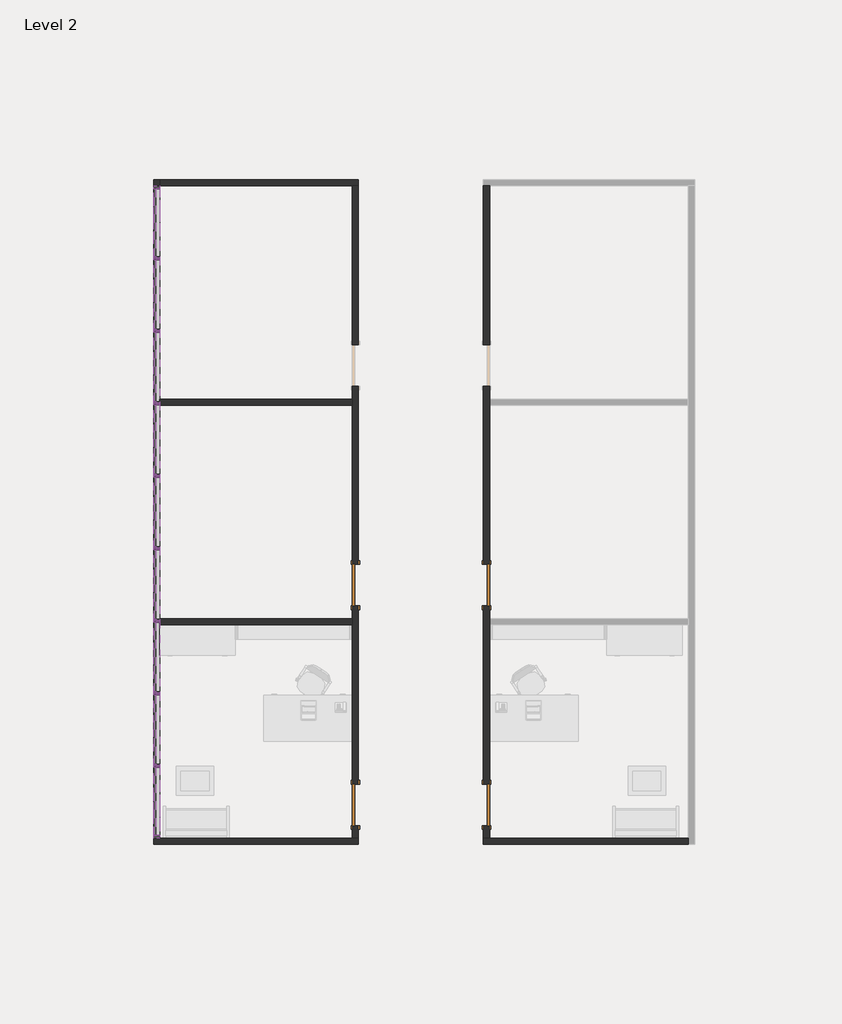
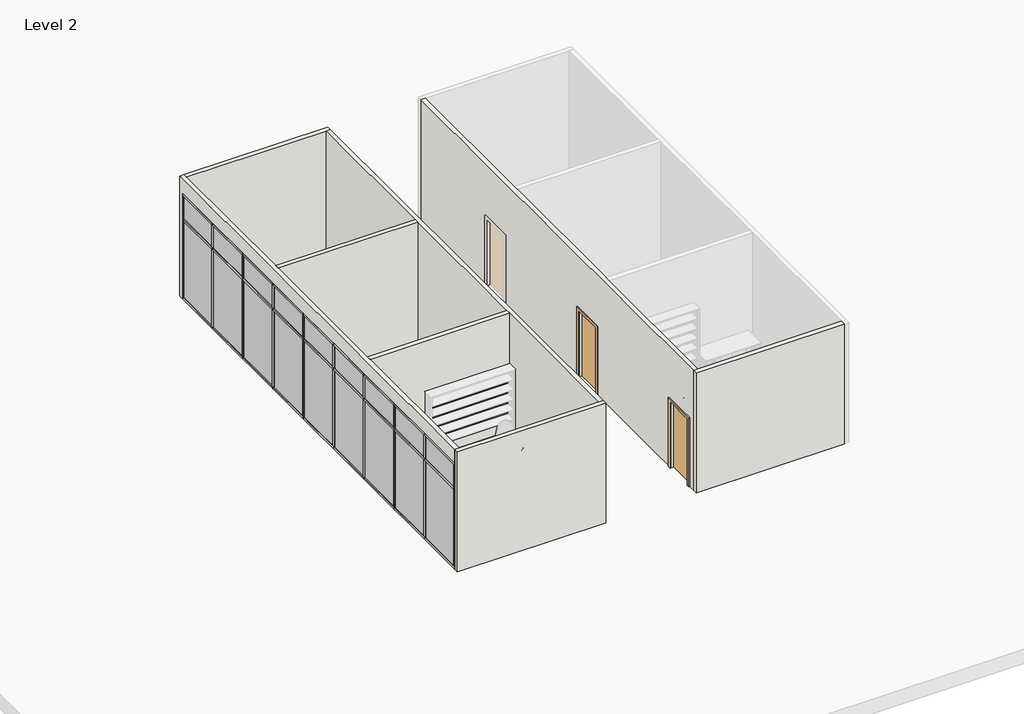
# One storey, part 1 of 2: 47 members, 18 plates, 8 walls, 4 doors.
"""IFC4 building model written with IfcOpenShell, lengths in millimetres."""

from ifc_helpers import new_model, si_unit, frame, origin, place, context, project, spatial, polyline, outline, extrude, faceted_brep, transform, mapped, element, save
from components import door_82111de5, door_92889684, member_fc09b6aa, member_9597caa3, member_b2bde9e6, member_131a91bd, member_8e4b14e5, member_ef392650, member_3251410a, system_panel_glazed_f771dc8d, system_panel_glazed_f1d9fa5b, system_panel_glazed_43c0bd6e, system_panel_glazed_38f416ca

model = new_model("IFC4")

# Units and contexts
model_context = context("Model", 3, world=origin())
ifc_project = project(units=[si_unit("LENGTHUNIT", "METRE", prefix="MILLI")], contexts=[model_context])

# Site, building, storey
site = spatial("IfcSite", under=ifc_project)
building = spatial("IfcBuilding", under=site)
storey = spatial("IfcBuildingStorey", under=building, Name="Level 2", Elevation=3657.6)

# Doors
placement = place(None, origin())
door_shape = door_82111de5(model_context)
element("IfcDoor", 1, ObjectType="Single-Flush : 34\" x 80\"", at=placement, inside=storey, context=model_context, shape_type="MappedRepresentation", body=[
    mapped(door_shape, transform((-51923.5856498, -16957.0103492, 3657.6), x_axis=(0.0, -1.0, 0.0), y_axis=(1.0, 0.0, 0.0), z_axis=(0.0, 0.0, 1.0))),
])
element("IfcDoor", 2, ObjectType="Single-Flush : 34\" x 80\"", at=placement, inside=storey, context=model_context, shape_type="MappedRepresentation", body=[
    mapped(door_shape, transform((-51923.5856498, -12385.0103492, 3657.6), x_axis=(0.0, -1.0, 0.0), y_axis=(1.0, 0.0, 0.0), z_axis=(0.0, 0.0, 1.0))),
])
door_2_shape = door_92889684(model_context)
element("IfcDoor", 3, ObjectType="Single-Flush : 34\" x 80\"", at=placement, inside=storey, context=model_context, shape_type="MappedRepresentation", body=[
    mapped(door_2_shape, transform((-49194.8999355, -16957.0103492, 3657.6), x_axis=(0.0, -1.0, 0.0), y_axis=(1.0, 0.0, 0.0), z_axis=(0.0, 0.0, 1.0))),
])
element("IfcDoor", 4, ObjectType="Single-Flush : 34\" x 80\"", at=placement, inside=storey, context=model_context, shape_type="MappedRepresentation", body=[
    mapped(door_2_shape, transform((-49194.8999355, -12385.0103492, 3657.6), x_axis=(0.0, -1.0, 0.0), y_axis=(1.0, 0.0, 0.0), z_axis=(0.0, 0.0, 1.0))),
])

# Members
member_shape = member_fc09b6aa(model_context)
element("IfcMember", 5, ObjectType="Rectangular Mullion : 2.5\" x 5\" rectangular", at=placement, inside=storey, context=model_context, shape_type="MappedRepresentation", body=[
    mapped(member_shape, transform((-56063.7856498, -14635.7325714, 6096.0), x_axis=(0.0, 0.0, 1.0), y_axis=(1.0, 0.0, 0.0), z_axis=(0.0, 1.0, 0.0))),
])
element("IfcMember", 6, ObjectType="Rectangular Mullion : 2.5\" x 5\" rectangular", at=placement, inside=storey, context=model_context, shape_type="MappedRepresentation", body=[
    mapped(member_shape, transform((-56063.7856498, -13125.8436825, 6096.0), x_axis=(0.0, 0.0, 1.0), y_axis=(1.0, 0.0, 0.0), z_axis=(0.0, 1.0, 0.0))),
])
element("IfcMember", 7, ObjectType="Rectangular Mullion : 2.5\" x 5\" rectangular", at=placement, inside=storey, context=model_context, shape_type="MappedRepresentation", body=[
    mapped(member_shape, transform((-56063.7856498, -11615.9547936, 6096.0), x_axis=(0.0, 0.0, 1.0), y_axis=(1.0, 0.0, 0.0), z_axis=(0.0, 1.0, 0.0))),
])
element("IfcMember", 8, ObjectType="Rectangular Mullion : 2.5\" x 5\" rectangular", at=placement, inside=storey, context=model_context, shape_type="MappedRepresentation", body=[
    mapped(member_shape, transform((-56063.7856498, -10106.0659048, 6096.0), x_axis=(0.0, 0.0, 1.0), y_axis=(1.0, 0.0, 0.0), z_axis=(0.0, 1.0, 0.0))),
])
element("IfcMember", 9, ObjectType="Rectangular Mullion : 2.5\" x 5\" rectangular", at=placement, inside=storey, context=model_context, shape_type="MappedRepresentation", body=[
    mapped(member_shape, transform((-56063.7856498, -8596.1770159, 6096.0), x_axis=(0.0, 0.0, 1.0), y_axis=(1.0, 0.0, 0.0), z_axis=(0.0, 1.0, 0.0))),
])
element("IfcMember", 10, ObjectType="Rectangular Mullion : 2.5\" x 5\" rectangular", at=placement, inside=storey, context=model_context, shape_type="MappedRepresentation", body=[
    mapped(member_shape, transform((-56063.7856498, -7086.288127, 6096.0), x_axis=(0.0, 0.0, 1.0), y_axis=(1.0, 0.0, 0.0), z_axis=(0.0, 1.0, 0.0))),
])
element("IfcMember", 11, ObjectType="Rectangular Mullion : 2.5\" x 5\" rectangular", at=placement, inside=storey, context=model_context, shape_type="MappedRepresentation", body=[
    mapped(member_shape, transform((-56063.7856498, -5576.3992381, 6096.0), x_axis=(0.0, 0.0, 1.0), y_axis=(1.0, 0.0, 0.0), z_axis=(0.0, 1.0, 0.0))),
])
member_2_shape = member_9597caa3(model_context)
element("IfcMember", 12, ObjectType="Rectangular Mullion : 2.5\" x 5\" rectangular", at=placement, inside=storey, context=model_context, shape_type="MappedRepresentation", body=[
    mapped(member_2_shape, transform((-56063.7856498, -16145.6214603, 3721.1), x_axis=(0.0, 1.0, 0.0), y_axis=(1.0, 0.0, 0.0), z_axis=(0.0, 0.0, -1.0))),
])
element("IfcMember", 13, ObjectType="Rectangular Mullion : 2.5\" x 5\" rectangular", at=placement, inside=storey, context=model_context, shape_type="MappedRepresentation", body=[
    mapped(member_2_shape, transform((-56063.7856498, -14635.7325714, 3721.1), x_axis=(0.0, 1.0, 0.0), y_axis=(1.0, 0.0, 0.0), z_axis=(0.0, 0.0, -1.0))),
])
element("IfcMember", 14, ObjectType="Rectangular Mullion : 2.5\" x 5\" rectangular", at=placement, inside=storey, context=model_context, shape_type="MappedRepresentation", body=[
    mapped(member_2_shape, transform((-56063.7856498, -13125.8436825, 3721.1), x_axis=(0.0, 1.0, 0.0), y_axis=(1.0, 0.0, 0.0), z_axis=(0.0, 0.0, -1.0))),
])
element("IfcMember", 15, ObjectType="Rectangular Mullion : 2.5\" x 5\" rectangular", at=placement, inside=storey, context=model_context, shape_type="MappedRepresentation", body=[
    mapped(member_2_shape, transform((-56063.7856498, -11615.9547936, 3721.1), x_axis=(0.0, 1.0, 0.0), y_axis=(1.0, 0.0, 0.0), z_axis=(0.0, 0.0, -1.0))),
])
element("IfcMember", 16, ObjectType="Rectangular Mullion : 2.5\" x 5\" rectangular", at=placement, inside=storey, context=model_context, shape_type="MappedRepresentation", body=[
    mapped(member_2_shape, transform((-56063.7856498, -10106.0659048, 3721.1), x_axis=(0.0, 1.0, 0.0), y_axis=(1.0, 0.0, 0.0), z_axis=(0.0, 0.0, -1.0))),
])
element("IfcMember", 17, ObjectType="Rectangular Mullion : 2.5\" x 5\" rectangular", at=placement, inside=storey, context=model_context, shape_type="MappedRepresentation", body=[
    mapped(member_2_shape, transform((-56063.7856498, -8596.1770159, 3721.1), x_axis=(0.0, 1.0, 0.0), y_axis=(1.0, 0.0, 0.0), z_axis=(0.0, 0.0, -1.0))),
])
element("IfcMember", 18, ObjectType="Rectangular Mullion : 2.5\" x 5\" rectangular", at=placement, inside=storey, context=model_context, shape_type="MappedRepresentation", body=[
    mapped(member_2_shape, transform((-56063.7856498, -7086.288127, 3721.1), x_axis=(0.0, 1.0, 0.0), y_axis=(1.0, 0.0, 0.0), z_axis=(0.0, 0.0, -1.0))),
])
element("IfcMember", 19, ObjectType="Rectangular Mullion : 2.5\" x 5\" rectangular", at=placement, inside=storey, context=model_context, shape_type="MappedRepresentation", body=[
    mapped(member_2_shape, transform((-56063.7856498, -5576.3992381, 3721.1), x_axis=(0.0, 1.0, 0.0), y_axis=(1.0, 0.0, 0.0), z_axis=(0.0, 0.0, -1.0))),
])
member_3_shape = member_b2bde9e6(model_context)
element("IfcMember", 20, ObjectType="Rectangular Mullion : 2.5\" x 5\" rectangular", at=placement, inside=storey, context=model_context, shape_type="MappedRepresentation", body=[
    mapped(member_3_shape, transform((-56063.7856498, -4066.5103492, 3721.1), x_axis=(0.0, 1.0, 0.0), y_axis=(1.0, 0.0, 0.0), z_axis=(0.0, 0.0, -1.0))),
])
element("IfcMember", 21, ObjectType="Rectangular Mullion : 2.5\" x 5\" rectangular", at=placement, inside=storey, context=model_context, shape_type="MappedRepresentation", body=[
    mapped(member_3_shape, transform((-56063.7856498, -17655.5103492, 6096.0), x_axis=(0.0, -1.0, 0.0), y_axis=(1.0, 0.0, 0.0), z_axis=(0.0, 0.0, 1.0))),
])
member_4_shape = member_131a91bd(model_context)
element("IfcMember", 22, ObjectType="Rectangular Mullion : 2.5\" x 5\" rectangular", at=placement, inside=storey, context=model_context, shape_type="MappedRepresentation", body=[
    mapped(member_4_shape, transform((-56063.7856498, -4066.5103492, 6883.4), x_axis=(0.0, 0.0, 1.0), y_axis=(1.0, 0.0, 0.0), z_axis=(0.0, 1.0, 0.0))),
])
element("IfcMember", 23, ObjectType="Rectangular Mullion : 2.5\" x 5\" rectangular", at=placement, inside=storey, context=model_context, shape_type="MappedRepresentation", body=[
    mapped(member_4_shape, transform((-56063.7856498, -16145.6214603, 6883.4), x_axis=(0.0, 0.0, 1.0), y_axis=(1.0, 0.0, 0.0), z_axis=(0.0, 1.0, 0.0))),
])
element("IfcMember", 24, ObjectType="Rectangular Mullion : 2.5\" x 5\" rectangular", at=placement, inside=storey, context=model_context, shape_type="MappedRepresentation", body=[
    mapped(member_4_shape, transform((-56063.7856498, -14635.7325714, 6883.4), x_axis=(0.0, 0.0, 1.0), y_axis=(1.0, 0.0, 0.0), z_axis=(0.0, 1.0, 0.0))),
])
element("IfcMember", 25, ObjectType="Rectangular Mullion : 2.5\" x 5\" rectangular", at=placement, inside=storey, context=model_context, shape_type="MappedRepresentation", body=[
    mapped(member_4_shape, transform((-56063.7856498, -13125.8436825, 6883.4), x_axis=(0.0, 0.0, 1.0), y_axis=(1.0, 0.0, 0.0), z_axis=(0.0, 1.0, 0.0))),
])
element("IfcMember", 26, ObjectType="Rectangular Mullion : 2.5\" x 5\" rectangular", at=placement, inside=storey, context=model_context, shape_type="MappedRepresentation", body=[
    mapped(member_4_shape, transform((-56063.7856498, -11615.9547936, 6883.4), x_axis=(0.0, 0.0, 1.0), y_axis=(1.0, 0.0, 0.0), z_axis=(0.0, 1.0, 0.0))),
])
element("IfcMember", 27, ObjectType="Rectangular Mullion : 2.5\" x 5\" rectangular", at=placement, inside=storey, context=model_context, shape_type="MappedRepresentation", body=[
    mapped(member_4_shape, transform((-56063.7856498, -10106.0659048, 6883.4), x_axis=(0.0, 0.0, 1.0), y_axis=(1.0, 0.0, 0.0), z_axis=(0.0, 1.0, 0.0))),
])
element("IfcMember", 28, ObjectType="Rectangular Mullion : 2.5\" x 5\" rectangular", at=placement, inside=storey, context=model_context, shape_type="MappedRepresentation", body=[
    mapped(member_4_shape, transform((-56063.7856498, -8596.1770159, 6883.4), x_axis=(0.0, 0.0, 1.0), y_axis=(1.0, 0.0, 0.0), z_axis=(0.0, 1.0, 0.0))),
])
element("IfcMember", 29, ObjectType="Rectangular Mullion : 2.5\" x 5\" rectangular", at=placement, inside=storey, context=model_context, shape_type="MappedRepresentation", body=[
    mapped(member_4_shape, transform((-56063.7856498, -7086.288127, 6883.4), x_axis=(0.0, 0.0, 1.0), y_axis=(1.0, 0.0, 0.0), z_axis=(0.0, 1.0, 0.0))),
])
element("IfcMember", 30, ObjectType="Rectangular Mullion : 2.5\" x 5\" rectangular", at=placement, inside=storey, context=model_context, shape_type="MappedRepresentation", body=[
    mapped(member_4_shape, transform((-56063.7856498, -5576.3992381, 6883.4), x_axis=(0.0, 0.0, 1.0), y_axis=(1.0, 0.0, 0.0), z_axis=(0.0, 1.0, 0.0))),
])
element("IfcMember", 31, ObjectType="Rectangular Mullion : 2.5\" x 5\" rectangular", at=placement, inside=storey, context=model_context, shape_type="MappedRepresentation", body=[
    mapped(member_4_shape, transform((-56063.7856498, -17655.5103492, 3657.6), x_axis=(0.0, 0.0, -1.0), y_axis=(1.0, 0.0, 0.0), z_axis=(0.0, -1.0, 0.0))),
])
element("IfcMember", 32, ObjectType="Rectangular Mullion : 2.5\" x 5\" rectangular", at=placement, inside=storey, context=model_context, shape_type="MappedRepresentation", body=[
    mapped(member_4_shape, transform((-56063.7856498, -16145.6214603, 3657.6), x_axis=(0.0, 0.0, -1.0), y_axis=(1.0, 0.0, 0.0), z_axis=(0.0, -1.0, 0.0))),
])
element("IfcMember", 33, ObjectType="Rectangular Mullion : 2.5\" x 5\" rectangular", at=placement, inside=storey, context=model_context, shape_type="MappedRepresentation", body=[
    mapped(member_4_shape, transform((-56063.7856498, -14635.7325714, 3657.6), x_axis=(0.0, 0.0, -1.0), y_axis=(1.0, 0.0, 0.0), z_axis=(0.0, -1.0, 0.0))),
])
element("IfcMember", 34, ObjectType="Rectangular Mullion : 2.5\" x 5\" rectangular", at=placement, inside=storey, context=model_context, shape_type="MappedRepresentation", body=[
    mapped(member_4_shape, transform((-56063.7856498, -13125.8436825, 3657.6), x_axis=(0.0, 0.0, -1.0), y_axis=(1.0, 0.0, 0.0), z_axis=(0.0, -1.0, 0.0))),
])
element("IfcMember", 35, ObjectType="Rectangular Mullion : 2.5\" x 5\" rectangular", at=placement, inside=storey, context=model_context, shape_type="MappedRepresentation", body=[
    mapped(member_4_shape, transform((-56063.7856498, -11615.9547936, 3657.6), x_axis=(0.0, 0.0, -1.0), y_axis=(1.0, 0.0, 0.0), z_axis=(0.0, -1.0, 0.0))),
])
element("IfcMember", 36, ObjectType="Rectangular Mullion : 2.5\" x 5\" rectangular", at=placement, inside=storey, context=model_context, shape_type="MappedRepresentation", body=[
    mapped(member_4_shape, transform((-56063.7856498, -10106.0659048, 3657.6), x_axis=(0.0, 0.0, -1.0), y_axis=(1.0, 0.0, 0.0), z_axis=(0.0, -1.0, 0.0))),
])
element("IfcMember", 37, ObjectType="Rectangular Mullion : 2.5\" x 5\" rectangular", at=placement, inside=storey, context=model_context, shape_type="MappedRepresentation", body=[
    mapped(member_4_shape, transform((-56063.7856498, -8596.1770159, 3657.6), x_axis=(0.0, 0.0, -1.0), y_axis=(1.0, 0.0, 0.0), z_axis=(0.0, -1.0, 0.0))),
])
element("IfcMember", 38, ObjectType="Rectangular Mullion : 2.5\" x 5\" rectangular", at=placement, inside=storey, context=model_context, shape_type="MappedRepresentation", body=[
    mapped(member_4_shape, transform((-56063.7856498, -7086.288127, 3657.6), x_axis=(0.0, 0.0, -1.0), y_axis=(1.0, 0.0, 0.0), z_axis=(0.0, -1.0, 0.0))),
])
element("IfcMember", 39, ObjectType="Rectangular Mullion : 2.5\" x 5\" rectangular", at=placement, inside=storey, context=model_context, shape_type="MappedRepresentation", body=[
    mapped(member_4_shape, transform((-56063.7856498, -5576.3992381, 3657.6), x_axis=(0.0, 0.0, -1.0), y_axis=(1.0, 0.0, 0.0), z_axis=(0.0, -1.0, 0.0))),
])
member_5_shape = member_8e4b14e5(model_context)
element("IfcMember", 40, ObjectType="Rectangular Mullion : 2.5\" x 5\" rectangular", at=placement, inside=storey, context=model_context, shape_type="MappedRepresentation", body=[
    mapped(member_5_shape, transform((-56063.7856498, -16145.6214603, 6096.0), x_axis=(0.0, 0.0, 1.0), y_axis=(1.0, 0.0, 0.0), z_axis=(0.0, 1.0, 0.0))),
])
element("IfcMember", 41, ObjectType="Rectangular Mullion : 2.5\" x 5\" rectangular", at=placement, inside=storey, context=model_context, shape_type="MappedRepresentation", body=[
    mapped(member_5_shape, transform((-56063.7856498, -4130.0103492, 6096.0), x_axis=(0.0, 0.0, 1.0), y_axis=(1.0, 0.0, 0.0), z_axis=(0.0, 1.0, 0.0))),
])
member_6_shape = member_ef392650(model_context)
element("IfcMember", 42, ObjectType="Rectangular Mullion : 2.5\" x 5\" rectangular", at=placement, inside=storey, context=model_context, shape_type="MappedRepresentation", body=[
    mapped(member_6_shape, transform((-56063.7856498, -16145.6214603, 6127.75), x_axis=(0.0, 1.0, 0.0), y_axis=(1.0, 0.0, 0.0), z_axis=(0.0, 0.0, -1.0))),
])
element("IfcMember", 43, ObjectType="Rectangular Mullion : 2.5\" x 5\" rectangular", at=placement, inside=storey, context=model_context, shape_type="MappedRepresentation", body=[
    mapped(member_6_shape, transform((-56063.7856498, -14635.7325714, 6127.75), x_axis=(0.0, 1.0, 0.0), y_axis=(1.0, 0.0, 0.0), z_axis=(0.0, 0.0, -1.0))),
])
element("IfcMember", 44, ObjectType="Rectangular Mullion : 2.5\" x 5\" rectangular", at=placement, inside=storey, context=model_context, shape_type="MappedRepresentation", body=[
    mapped(member_6_shape, transform((-56063.7856498, -13125.8436825, 6127.75), x_axis=(0.0, 1.0, 0.0), y_axis=(1.0, 0.0, 0.0), z_axis=(0.0, 0.0, -1.0))),
])
element("IfcMember", 45, ObjectType="Rectangular Mullion : 2.5\" x 5\" rectangular", at=placement, inside=storey, context=model_context, shape_type="MappedRepresentation", body=[
    mapped(member_6_shape, transform((-56063.7856498, -11615.9547936, 6127.75), x_axis=(0.0, 1.0, 0.0), y_axis=(1.0, 0.0, 0.0), z_axis=(0.0, 0.0, -1.0))),
])
element("IfcMember", 46, ObjectType="Rectangular Mullion : 2.5\" x 5\" rectangular", at=placement, inside=storey, context=model_context, shape_type="MappedRepresentation", body=[
    mapped(member_6_shape, transform((-56063.7856498, -10106.0659048, 6127.75), x_axis=(0.0, 1.0, 0.0), y_axis=(1.0, 0.0, 0.0), z_axis=(0.0, 0.0, -1.0))),
])
element("IfcMember", 47, ObjectType="Rectangular Mullion : 2.5\" x 5\" rectangular", at=placement, inside=storey, context=model_context, shape_type="MappedRepresentation", body=[
    mapped(member_6_shape, transform((-56063.7856498, -8596.1770159, 6127.75), x_axis=(0.0, 1.0, 0.0), y_axis=(1.0, 0.0, 0.0), z_axis=(0.0, 0.0, -1.0))),
])
element("IfcMember", 48, ObjectType="Rectangular Mullion : 2.5\" x 5\" rectangular", at=placement, inside=storey, context=model_context, shape_type="MappedRepresentation", body=[
    mapped(member_6_shape, transform((-56063.7856498, -7086.288127, 6127.75), x_axis=(0.0, 1.0, 0.0), y_axis=(1.0, 0.0, 0.0), z_axis=(0.0, 0.0, -1.0))),
])
element("IfcMember", 49, ObjectType="Rectangular Mullion : 2.5\" x 5\" rectangular", at=placement, inside=storey, context=model_context, shape_type="MappedRepresentation", body=[
    mapped(member_6_shape, transform((-56063.7856498, -5576.3992381, 6127.75), x_axis=(0.0, 1.0, 0.0), y_axis=(1.0, 0.0, 0.0), z_axis=(0.0, 0.0, -1.0))),
])
member_7_shape = member_3251410a(model_context)
element("IfcMember", 50, ObjectType="Rectangular Mullion : 2.5\" x 5\" rectangular", at=placement, inside=storey, context=model_context, shape_type="MappedRepresentation", body=[
    mapped(member_7_shape, transform((-56063.7856498, -4066.5103492, 6096.0), x_axis=(0.0, 1.0, 0.0), y_axis=(1.0, 0.0, 0.0), z_axis=(0.0, 0.0, -1.0))),
])
element("IfcMember", 51, ObjectType="Rectangular Mullion : 2.5\" x 5\" rectangular", at=placement, inside=storey, context=model_context, shape_type="MappedRepresentation", body=[
    mapped(member_7_shape, transform((-56063.7856498, -17655.5103492, 6819.9), x_axis=(0.0, -1.0, 0.0), y_axis=(1.0, 0.0, 0.0), z_axis=(0.0, 0.0, 1.0))),
])

# Plates
system_panel_glazed_shape = system_panel_glazed_f771dc8d(model_context)
element("IfcPlate", 52, ObjectType="System Panel : Glazed", at=placement, inside=storey, context=model_context, shape_type="MappedRepresentation", body=[
    mapped(system_panel_glazed_shape, transform((-56063.7856498, -16884.6909048, 3721.1), x_axis=(0.0, 1.0, 0.0), y_axis=(-1.0, 0.0, 0.0), z_axis=(0.0, 0.0, 1.0))),
])
element("IfcPlate", 53, ObjectType="System Panel : Glazed", at=placement, inside=storey, context=model_context, shape_type="MappedRepresentation", body=[
    mapped(system_panel_glazed_shape, transform((-56063.7856498, -4837.3297936, 3721.1), x_axis=(0.0, 1.0, 0.0), y_axis=(-1.0, 0.0, 0.0), z_axis=(0.0, 0.0, 1.0))),
])
system_panel_glazed_2_shape = system_panel_glazed_f1d9fa5b(model_context)
element("IfcPlate", 54, ObjectType="System Panel : Glazed", at=placement, inside=storey, context=model_context, shape_type="MappedRepresentation", body=[
    mapped(system_panel_glazed_2_shape, transform((-56063.7856498, -15390.6770159, 3721.1), x_axis=(0.0, 1.0, 0.0), y_axis=(-1.0, 0.0, 0.0), z_axis=(0.0, 0.0, 1.0))),
])
element("IfcPlate", 55, ObjectType="System Panel : Glazed", at=placement, inside=storey, context=model_context, shape_type="MappedRepresentation", body=[
    mapped(system_panel_glazed_2_shape, transform((-56063.7856498, -13880.788127, 3721.1), x_axis=(0.0, 1.0, 0.0), y_axis=(-1.0, 0.0, 0.0), z_axis=(0.0, 0.0, 1.0))),
])
element("IfcPlate", 56, ObjectType="System Panel : Glazed", at=placement, inside=storey, context=model_context, shape_type="MappedRepresentation", body=[
    mapped(system_panel_glazed_2_shape, transform((-56063.7856498, -12370.8992381, 3721.1), x_axis=(0.0, 1.0, 0.0), y_axis=(-1.0, 0.0, 0.0), z_axis=(0.0, 0.0, 1.0))),
])
element("IfcPlate", 57, ObjectType="System Panel : Glazed", at=placement, inside=storey, context=model_context, shape_type="MappedRepresentation", body=[
    mapped(system_panel_glazed_2_shape, transform((-56063.7856498, -10861.0103492, 3721.1), x_axis=(0.0, 1.0, 0.0), y_axis=(-1.0, 0.0, 0.0), z_axis=(0.0, 0.0, 1.0))),
])
element("IfcPlate", 58, ObjectType="System Panel : Glazed", at=placement, inside=storey, context=model_context, shape_type="MappedRepresentation", body=[
    mapped(system_panel_glazed_2_shape, transform((-56063.7856498, -9351.1214603, 3721.1), x_axis=(0.0, 1.0, 0.0), y_axis=(-1.0, 0.0, 0.0), z_axis=(0.0, 0.0, 1.0))),
])
element("IfcPlate", 59, ObjectType="System Panel : Glazed", at=placement, inside=storey, context=model_context, shape_type="MappedRepresentation", body=[
    mapped(system_panel_glazed_2_shape, transform((-56063.7856498, -7841.2325714, 3721.1), x_axis=(0.0, 1.0, 0.0), y_axis=(-1.0, 0.0, 0.0), z_axis=(0.0, 0.0, 1.0))),
])
element("IfcPlate", 60, ObjectType="System Panel : Glazed", at=placement, inside=storey, context=model_context, shape_type="MappedRepresentation", body=[
    mapped(system_panel_glazed_2_shape, transform((-56063.7856498, -6331.3436825, 3721.1), x_axis=(0.0, 1.0, 0.0), y_axis=(-1.0, 0.0, 0.0), z_axis=(0.0, 0.0, 1.0))),
])
system_panel_glazed_3_shape = system_panel_glazed_43c0bd6e(model_context)
element("IfcPlate", 61, ObjectType="System Panel : Glazed", at=placement, inside=storey, context=model_context, shape_type="MappedRepresentation", body=[
    mapped(system_panel_glazed_3_shape, transform((-56063.7856498, -16884.6909048, 6127.75), x_axis=(0.0, 1.0, 0.0), y_axis=(-1.0, 0.0, 0.0), z_axis=(0.0, 0.0, 1.0))),
])
element("IfcPlate", 62, ObjectType="System Panel : Glazed", at=placement, inside=storey, context=model_context, shape_type="MappedRepresentation", body=[
    mapped(system_panel_glazed_3_shape, transform((-56063.7856498, -4837.3297936, 6127.75), x_axis=(0.0, 1.0, 0.0), y_axis=(-1.0, 0.0, 0.0), z_axis=(0.0, 0.0, 1.0))),
])
system_panel_glazed_4_shape = system_panel_glazed_38f416ca(model_context)
element("IfcPlate", 63, ObjectType="System Panel : Glazed", at=placement, inside=storey, context=model_context, shape_type="MappedRepresentation", body=[
    mapped(system_panel_glazed_4_shape, transform((-56063.7856498, -15390.6770159, 6127.75), x_axis=(0.0, 1.0, 0.0), y_axis=(-1.0, 0.0, 0.0), z_axis=(0.0, 0.0, 1.0))),
])
element("IfcPlate", 64, ObjectType="System Panel : Glazed", at=placement, inside=storey, context=model_context, shape_type="MappedRepresentation", body=[
    mapped(system_panel_glazed_4_shape, transform((-56063.7856498, -13880.788127, 6127.75), x_axis=(0.0, 1.0, 0.0), y_axis=(-1.0, 0.0, 0.0), z_axis=(0.0, 0.0, 1.0))),
])
element("IfcPlate", 65, ObjectType="System Panel : Glazed", at=placement, inside=storey, context=model_context, shape_type="MappedRepresentation", body=[
    mapped(system_panel_glazed_4_shape, transform((-56063.7856498, -12370.8992381, 6127.75), x_axis=(0.0, 1.0, 0.0), y_axis=(-1.0, 0.0, 0.0), z_axis=(0.0, 0.0, 1.0))),
])
element("IfcPlate", 66, ObjectType="System Panel : Glazed", at=placement, inside=storey, context=model_context, shape_type="MappedRepresentation", body=[
    mapped(system_panel_glazed_4_shape, transform((-56063.7856498, -10861.0103492, 6127.75), x_axis=(0.0, 1.0, 0.0), y_axis=(-1.0, 0.0, 0.0), z_axis=(0.0, 0.0, 1.0))),
])
element("IfcPlate", 67, ObjectType="System Panel : Glazed", at=placement, inside=storey, context=model_context, shape_type="MappedRepresentation", body=[
    mapped(system_panel_glazed_4_shape, transform((-56063.7856498, -9351.1214603, 6127.75), x_axis=(0.0, 1.0, 0.0), y_axis=(-1.0, 0.0, 0.0), z_axis=(0.0, 0.0, 1.0))),
])
element("IfcPlate", 68, ObjectType="System Panel : Glazed", at=placement, inside=storey, context=model_context, shape_type="MappedRepresentation", body=[
    mapped(system_panel_glazed_4_shape, transform((-56063.7856498, -7841.2325714, 6127.75), x_axis=(0.0, 1.0, 0.0), y_axis=(-1.0, 0.0, 0.0), z_axis=(0.0, 0.0, 1.0))),
])
element("IfcPlate", 69, ObjectType="System Panel : Glazed", at=placement, inside=storey, context=model_context, shape_type="MappedRepresentation", body=[
    mapped(system_panel_glazed_4_shape, transform((-56063.7856498, -6331.3436825, 6127.75), x_axis=(0.0, 1.0, 0.0), y_axis=(-1.0, 0.0, 0.0), z_axis=(0.0, 0.0, 1.0))),
])

# Walls
element("IfcWall", 70, ObjectType="Interior - Generic - 5\"", at=placement, inside=storey, context=model_context, shape_type="Brep", body=[
    faceted_brep([(-56127.2856498, -17782.5103492, 3657.6), (-51860.0856498, -17782.5103492, 3657.6), (-51860.0856498, -17782.5103492, 7315.2), (-56127.2856498, -17782.5103492, 7315.2), (-56127.2856498, -17655.5103492, 3657.6), (-56127.2856498, -17655.5103492, 7315.2), (-51987.0856498, -17655.5103492, 7315.2), (-51860.0856498, -17655.5103492, 7315.2), (-51860.0856498, -17655.5103492, 3657.6), (-51987.0856498, -17655.5103492, 3657.6)], [[[0, 1, 2, 3]], [[4, 5, 6, 7, 8, 9]], [[1, 0, 4, 9, 8]], [[3, 2, 7, 6, 5]], [[0, 3, 5, 4]], [[2, 1, 8, 7]]]),
])
element("IfcWall", 71, ObjectType="Interior - Generic - 5\"", at=placement, inside=storey, context=model_context, shape_type="Brep", body=[
    faceted_brep([(-56127.2856498, -17655.5103492, 7315.2), (-56127.2856498, -3939.5103492, 7315.2), (-56127.2856498, -3939.5103492, 3657.6), (-56127.2856498, -4066.5103492, 3657.6), (-56127.2856498, -4066.5103492, 6883.4), (-56127.2856498, -17655.5103492, 6883.4), (-56000.2856498, -3939.5103492, 7315.2), (-56000.2856498, -4066.5103492, 7315.2), (-56000.2856498, -8511.5103492, 7315.2), (-56000.2856498, -8638.5103492, 7315.2), (-56000.2856498, -13083.5103492, 7315.2), (-56000.2856498, -13210.5103492, 7315.2), (-56000.2856498, -17655.5103492, 7315.2), (-56000.2856498, -17655.5103492, 6883.4), (-56000.2856498, -4066.5103492, 6883.4), (-56000.2856498, -4066.5103492, 3657.6), (-56000.2856498, -3939.5103492, 3657.6)], [[[0, 1, 2, 3, 4, 5]], [[6, 7, 8, 9, 10, 11, 12, 13, 14, 15, 16]], [[2, 16, 15, 3]], [[1, 0, 12, 11, 10, 9, 8, 7, 6]], [[2, 1, 6, 16]], [[12, 0, 5, 13]], [[14, 4, 3, 15]], [[4, 14, 13, 5]]]),
])
element("IfcWall", 72, ObjectType="Interior - Generic - 5\"", at=placement, inside=storey, context=model_context, shape_type="Brep", body=[
    faceted_brep([(-49131.3999355, -11953.2103492, 3657.6), (-49131.3999355, -8638.5103492, 3657.6), (-49131.3999355, -8511.5103492, 3657.6), (-49131.3999355, -8244.8103492, 3657.6), (-49131.3999355, -8244.8103492, 5689.6), (-49131.3999355, -7381.2103492, 5689.6), (-49131.3999355, -7381.2103492, 3657.6), (-49131.3999355, -4066.5103492, 3657.6), (-49131.3999355, -4066.5103492, 7315.2), (-49131.3999355, -8511.5103492, 7315.2), (-49131.3999355, -8638.5103492, 7315.2), (-49131.3999355, -13083.5103492, 7315.2), (-49131.3999355, -13210.5103492, 7315.2), (-49131.3999355, -17655.5103492, 7315.2), (-49131.3999355, -17655.5103492, 3657.6), (-49131.3999355, -17388.8103492, 3657.6), (-49131.3999355, -17388.8103492, 5689.6), (-49131.3999355, -16525.2103492, 5689.6), (-49131.3999355, -16525.2103492, 3657.6), (-49131.3999355, -13210.5103492, 3657.6), (-49131.3999355, -13083.5103492, 3657.6), (-49131.3999355, -12816.8103492, 3657.6), (-49131.3999355, -12816.8103492, 5689.6), (-49131.3999355, -11953.2103492, 5689.6), (-49258.3999355, -8244.8103492, 5689.6), (-49258.3999355, -8244.8103492, 3657.6), (-49258.3999355, -11953.2103492, 3657.6), (-49258.3999355, -11953.2103492, 5689.6), (-49258.3999355, -12816.8103492, 5689.6), (-49258.3999355, -12816.8103492, 3657.6), (-49258.3999355, -16525.2103492, 3657.6), (-49258.3999355, -16525.2103492, 5689.6), (-49258.3999355, -17388.8103492, 5689.6), (-49258.3999355, -17388.8103492, 3657.6), (-49258.3999355, -17655.5103492, 3657.6), (-49258.3999355, -17655.5103492, 7315.2), (-49258.3999355, -4066.5103492, 7315.2), (-49258.3999355, -4066.5103492, 3657.6), (-49258.3999355, -7381.2103492, 3657.6), (-49258.3999355, -7381.2103492, 5689.6)], [[[0, 1, 2, 3, 4, 5, 6, 7, 8, 9, 10, 11, 12, 13, 14, 15, 16, 17, 18, 19, 20, 21, 22, 23]], [[24, 25, 26, 27, 28, 29, 30, 31, 32, 33, 34, 35, 36, 37, 38, 39]], [[34, 33, 15, 14]], [[30, 29, 21, 20, 19, 18]], [[38, 37, 7, 6]], [[26, 25, 3, 2, 1, 0]], [[13, 12, 11, 10, 9, 8, 36, 35]], [[8, 7, 37, 36]], [[14, 13, 35, 34]], [[16, 15, 33, 32]], [[17, 16, 32, 31]], [[18, 17, 31, 30]], [[22, 21, 29, 28]], [[23, 22, 28, 27]], [[0, 23, 27, 26]], [[4, 3, 25, 24]], [[5, 4, 24, 39]], [[6, 5, 39, 38]]]),
])
element("IfcWall", 73, ObjectType="Interior - Generic - 5\"", at=placement, inside=storey, context=model_context, shape_type="Brep", body=[
    faceted_brep([(-51987.0856498, -8244.8103492, 5689.6), (-51987.0856498, -8244.8103492, 3657.6), (-51987.0856498, -8511.5103492, 3657.6), (-51987.0856498, -8638.5103492, 3657.6), (-51987.0856498, -11953.2103492, 3657.6), (-51987.0856498, -11953.2103492, 5689.6), (-51987.0856498, -12816.8103492, 5689.6), (-51987.0856498, -12816.8103492, 3657.6), (-51987.0856498, -13083.5103492, 3657.6), (-51987.0856498, -13210.5103492, 3657.6), (-51987.0856498, -16525.2103492, 3657.6), (-51987.0856498, -16525.2103492, 5689.6), (-51987.0856498, -17388.8103492, 5689.6), (-51987.0856498, -17388.8103492, 3657.6), (-51987.0856498, -17655.5103492, 3657.6), (-51987.0856498, -17655.5103492, 7315.2), (-51987.0856498, -13210.5103492, 7315.2), (-51987.0856498, -13083.5103492, 7315.2), (-51987.0856498, -8638.5103492, 7315.2), (-51987.0856498, -8511.5103492, 7315.2), (-51987.0856498, -4066.5103492, 7315.2), (-51987.0856498, -4066.5103492, 3657.6), (-51987.0856498, -7381.2103492, 3657.6), (-51987.0856498, -7381.2103492, 5689.6), (-51860.0856498, -11953.2103492, 3657.6), (-51860.0856498, -8244.8103492, 3657.6), (-51860.0856498, -8244.8103492, 5689.6), (-51860.0856498, -7381.2103492, 5689.6), (-51860.0856498, -7381.2103492, 3657.6), (-51860.0856498, -4066.5103492, 3657.6), (-51860.0856498, -4066.5103492, 7315.2), (-51860.0856498, -17655.5103492, 7315.2), (-51860.0856498, -17655.5103492, 3657.6), (-51860.0856498, -17388.8103492, 3657.6), (-51860.0856498, -17388.8103492, 5689.6), (-51860.0856498, -16525.2103492, 5689.6), (-51860.0856498, -16525.2103492, 3657.6), (-51860.0856498, -12816.8103492, 3657.6), (-51860.0856498, -12816.8103492, 5689.6), (-51860.0856498, -11953.2103492, 5689.6)], [[[0, 1, 2, 3, 4, 5, 6, 7, 8, 9, 10, 11, 12, 13, 14, 15, 16, 17, 18, 19, 20, 21, 22, 23]], [[24, 25, 26, 27, 28, 29, 30, 31, 32, 33, 34, 35, 36, 37, 38, 39]], [[14, 13, 33, 32]], [[10, 9, 8, 7, 37, 36]], [[22, 21, 29, 28]], [[4, 3, 2, 1, 25, 24]], [[20, 19, 18, 17, 16, 15, 31, 30]], [[21, 20, 30, 29]], [[15, 14, 32, 31]], [[34, 33, 13, 12]], [[35, 34, 12, 11]], [[36, 35, 11, 10]], [[38, 37, 7, 6]], [[39, 38, 6, 5]], [[24, 39, 5, 4]], [[26, 25, 1, 0]], [[27, 26, 0, 23]], [[28, 27, 23, 22]]]),
])
element("IfcWall", 74, ObjectType="Interior - Generic - 5\"", at=placement, inside=storey, context=model_context, shape_type="Brep", body=[
    faceted_brep([(-49258.3999355, -17782.5103492, 3657.6), (-44991.1999355, -17782.5103492, 3657.6), (-44991.1999355, -17782.5103492, 7315.2), (-49258.3999355, -17782.5103492, 7315.2), (-49258.3999355, -17655.5103492, 3657.6), (-49258.3999355, -17655.5103492, 7315.2), (-49131.3999355, -17655.5103492, 7315.2), (-44991.1999355, -17655.5103492, 7315.2), (-44991.1999355, -17655.5103492, 3657.6), (-49131.3999355, -17655.5103492, 3657.6)], [[[0, 1, 2, 3]], [[4, 5, 6, 7, 8, 9]], [[1, 0, 4, 9, 8]], [[3, 2, 7, 6, 5]], [[2, 1, 8, 7]], [[0, 3, 5, 4]]]),
])
element("IfcWall", 75, ObjectType="Interior - Generic - 5\"", at=placement, inside=storey, context=model_context, shape_type="Brep", body=[
    faceted_brep([(-51860.0856498, -3939.5103492, 3657.6), (-56000.2856498, -3939.5103492, 3657.6), (-56000.2856498, -3939.5103492, 7315.2), (-51860.0856498, -3939.5103492, 7315.2), (-51860.0856498, -4066.5103492, 3657.6), (-51860.0856498, -4066.5103492, 7315.2), (-51987.0856498, -4066.5103492, 7315.2), (-56000.2856498, -4066.5103492, 7315.2), (-56000.2856498, -4066.5103492, 3657.6), (-51987.0856498, -4066.5103492, 3657.6)], [[[0, 1, 2, 3]], [[4, 5, 6, 7, 8, 9]], [[1, 0, 4, 9, 8]], [[3, 2, 7, 6, 5]], [[2, 1, 8, 7]], [[0, 3, 5, 4]]]),
])
element("IfcWall", 76, ObjectType="Interior - Generic - 5\"", at=placement, inside=storey, context=model_context, shape_type="SweptSolid", body=[
    extrude(outline(polyline([(-56000.2856498, -13083.5103492), (-51987.0856498, -13083.5103492), (-51987.0856498, -13210.5103492), (-56000.2856498, -13210.5103492), (-56000.2856498, -13083.5103492)])), frame((0.0, 0.0, 3657.6), z_axis=(0.0, 0.0, 1.0), x_axis=(1.0, 0.0, 0.0)), (0.0, 0.0, 1.0), 3657.6),
])
element("IfcWall", 77, ObjectType="Interior - Generic - 5\"", at=placement, inside=storey, context=model_context, shape_type="SweptSolid", body=[
    extrude(outline(polyline([(-56000.2856498, -8511.5103492), (-51987.0856498, -8511.5103492), (-51987.0856498, -8638.5103492), (-56000.2856498, -8638.5103492), (-56000.2856498, -8511.5103492)])), frame((0.0, 0.0, 3657.6), z_axis=(0.0, 0.0, 1.0), x_axis=(1.0, 0.0, 0.0)), (0.0, 0.0, 1.0), 3657.6),
])

save(model, "model.ifc")
